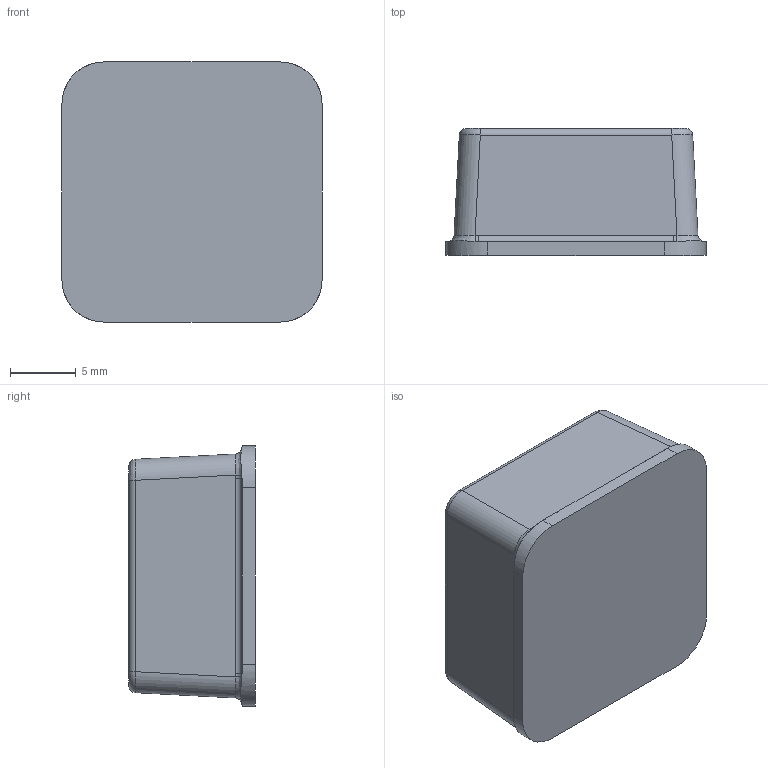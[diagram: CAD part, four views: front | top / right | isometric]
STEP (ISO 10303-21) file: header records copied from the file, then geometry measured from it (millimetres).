
FILE_DESCRIPTION(/* description */ (''),/* implementation_level */ '2;1');
FILE_NAME(/* name */ 'C:/Users/Mark/Downloads/STEP Files/BS04.step',/* time_stamp */ '2020-02-10T10:55:44-05:00',/* author */ (''),/* organization */ (''),/* preprocessor_version */ 'ST-DEVELOPER v18',/* originating_system */ 'Autodesk Translation Framework v8.12.0.6',/* authorisation */ '');
FILE_SCHEMA (('AUTOMOTIVE_DESIGN { 1 0 10303 214 3 1 1 }'));
Length unit declared in the file: inch
Products named in the file (1): BS04
Bounding box: 19.81 x 9.65 x 19.81 mm (x, y, z)
Volume: 3228.1 mm3; surface area: 1387.9 mm2
Topology: 1 solids, 1 shells, 46 faces, 108 edges, 64 vertices
Faces by surface type: cylinder 24, plane 14, bspline 8
Entity records: 1659 total; most frequent: CARTESIAN_POINT 583, DIRECTION 222, ORIENTED_EDGE 216, EDGE_CURVE 108, AXIS2_PLACEMENT_3D 87, VERTEX_POINT 64, LINE 48, VECTOR 48
